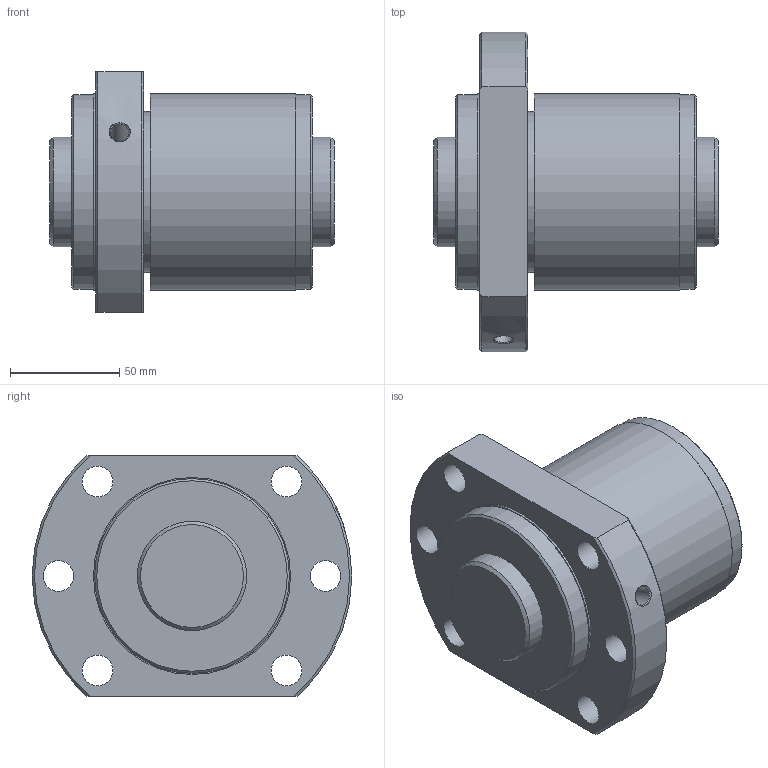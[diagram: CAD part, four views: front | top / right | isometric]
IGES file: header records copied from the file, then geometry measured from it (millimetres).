
Start section: Data from Parasolid IGES Translator 26.0.171, Copyright(c) 2006 Siemens PLM Software. All Rights Reserved.
Global section: file name: SBK5020-7.6RRG0+130LC0(0000).igs; native system: By Siemens PLM Incorporated; preprocessor: XPlus GENERIC/IGES 26.0.171; author: Noname; organization: Noname; date: 20240528.112026; units: millimetre
Bounding box: 130 x 146 x 110 mm (x, y, z)
Surface area: 108986.2 mm2 (no closed solid volume)
Topology: 0 solids, 0 shells, 37 faces, 159 edges, 132 vertices
Faces by surface type: revolution 26, extrusion 11
